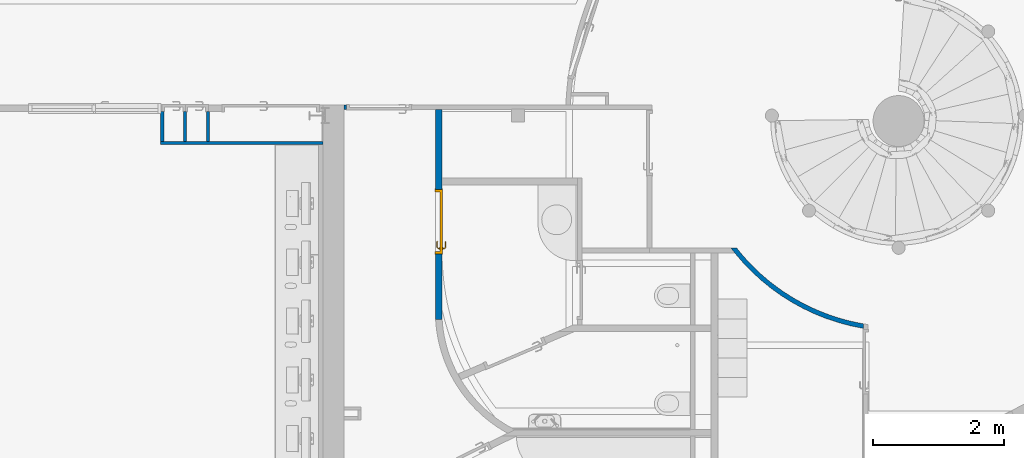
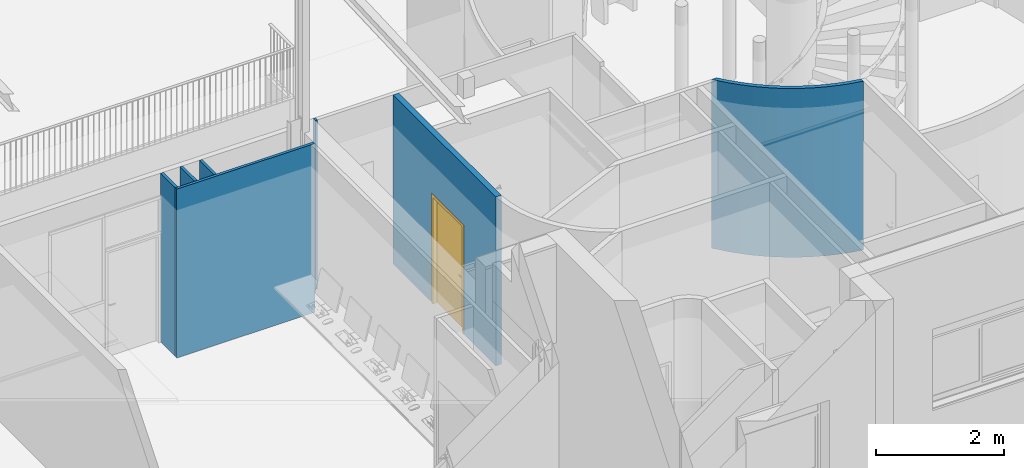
# One storey, part 46 of 137: 7 walls, 1 door, 1 opening.
"""IFC2X3 building model written with IfcOpenShell, lengths in centimetres."""

from ifc_helpers import new_model, entity, si_unit, converted_unit, derived_unit, direction, frame, frame_2d, origin, place, context, subcontext, project, spatial, polyline, circle_curve, parameter, trimmed, segment, composite_curve, rectangle, outline, extrude, clip, bounded_halfspace, faceted_brep, source, transform, mapped, material, material_list, layer, layer_set, layer_usage, type_object, type_shapes, element, fill, save


model = new_model("IFC2X3")

# Units and contexts
model_context = context("Model", 3, precision=0.001, world=origin(), true_north=direction((6.12303176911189e-17, 1.0)))
body_context = subcontext(model_context, "Body", "Model", "MODEL_VIEW")
ifc_project = project(units=[si_unit("LENGTHUNIT", "METRE", prefix="CENTI"), si_unit("AREAUNIT", "SQUARE_METRE"), si_unit("VOLUMEUNIT", "CUBIC_METRE"), converted_unit("PLANEANGLEUNIT", "DEGREE", entity("IfcRatioMeasure", 0.0174532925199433), si_unit("PLANEANGLEUNIT", "RADIAN"), dimensions=[0, 0, 0, 0, 0, 0, 0]), si_unit("MASSUNIT", "GRAM", prefix="KILO"), si_unit("TIMEUNIT", "SECOND"), si_unit("FREQUENCYUNIT", "HERTZ"), si_unit("THERMODYNAMICTEMPERATUREUNIT", "DEGREE_CELSIUS"), derived_unit("THERMALTRANSMITTANCEUNIT", [(si_unit("MASSUNIT", "GRAM", prefix="KILO"), 1), (si_unit("THERMODYNAMICTEMPERATUREUNIT", "KELVIN"), -1), (si_unit("TIMEUNIT", "SECOND"), -3)]), derived_unit("VOLUMETRICFLOWRATEUNIT", [(si_unit("LENGTHUNIT", "METRE"), 3), (si_unit("TIMEUNIT", "SECOND"), -1)]), si_unit("ELECTRICCURRENTUNIT", "AMPERE"), si_unit("ELECTRICVOLTAGEUNIT", "VOLT"), si_unit("POWERUNIT", "WATT"), si_unit("FORCEUNIT", "NEWTON", prefix="KILO"), si_unit("ILLUMINANCEUNIT", "LUX"), si_unit("LUMINOUSFLUXUNIT", "LUMEN"), si_unit("LUMINOUSINTENSITYUNIT", "CANDELA"), derived_unit("USERDEFINED", [(si_unit("MASSUNIT", "GRAM", prefix="KILO"), -1), (si_unit("LENGTHUNIT", "METRE"), -2), (si_unit("TIMEUNIT", "SECOND"), 3), (si_unit("LUMINOUSFLUXUNIT", "LUMEN"), 1)]), derived_unit("LINEARVELOCITYUNIT", [(si_unit("LENGTHUNIT", "METRE"), 1), (si_unit("TIMEUNIT", "SECOND"), -1)]), si_unit("PRESSUREUNIT", "PASCAL"), derived_unit("USERDEFINED", [(si_unit("LENGTHUNIT", "METRE"), -2), (si_unit("MASSUNIT", "GRAM", prefix="KILO"), 1), (si_unit("TIMEUNIT", "SECOND"), -2)])], contexts=[model_context])

# Site, building, storey
site_placement = place(None, frame((8.62739174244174, -249.285249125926, 0.0)))
site = spatial("IfcSite", under=ifc_project, at=site_placement, Name="Default", CompositionType="ELEMENT")
building_placement = place(site_placement, origin())
building = spatial("IfcBuilding", under=site, at=building_placement, CompositionType="ELEMENT")
storey_placement = place(building_placement, origin())
storey = spatial("IfcBuildingStorey", under=building, at=storey_placement, Name="RDC", CompositionType="ELEMENT", Elevation=-8.82465566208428e-11)

# Walls
ifc_material_1 = material(Name="Plâtre EXISTANT")
ifc_layer_1 = layer(ifc_material_1, 7.0)
ifc_layer_set_1 = layer_set([ifc_layer_1], Name="Mur de base:PLA EXISTANT 7")
ifc_layer_usage_1 = layer_usage(ifc_layer_set_1, "AXIS2", "POSITIVE", -3.5)
wall_type_1 = type_object("IfcWallType", Name="Mur de base:PLA EXISTANT 7", PredefinedType="STANDARD", material=ifc_layer_set_1)
wall_1_placement = place(storey_placement, frame((2990.49019075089, 439.59711501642, 0.0)))
element("IfcWallStandardCase", 1, at=wall_1_placement, inside=storey, type_object=wall_type_1, material=ifc_layer_usage_1, Name="Mur de base:PLA EXISTANT 7", ObjectType="Mur de base:PLA EXISTANT 7", context=body_context, shape_type="Clipping", body=[
    clip(extrude(outline(composite_curve([segment(polyline([(-203.252587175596, 119.383093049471), (-200.543044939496, 115.862655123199)]), True, "CONTINUOUS"), segment(polyline([(-200.543044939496, 115.862655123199), (-197.784426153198, 112.379194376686)]), True, "CONTINUOUS"), segment(polyline([(-197.784426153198, 112.379194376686), (-185.135361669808, 97.5703781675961)]), True, "CONTINUOUS"), segment(polyline([(-185.135361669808, 97.5703781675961), (-171.610250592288, 83.5497326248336)]), True, "CONTINUOUS"), segment(polyline([(-171.610250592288, 83.5497326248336), (-157.262022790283, 70.3726294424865)]), True, "CONTINUOUS"), segment(polyline([(-157.262022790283, 70.3726294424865), (-142.143191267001, 58.0872994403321)]), True, "CONTINUOUS"), segment(polyline([(-142.143191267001, 58.0872994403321), (-126.309089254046, 46.7387102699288)]), True, "CONTINUOUS"), segment(polyline([(-126.309089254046, 46.7387102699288), (-109.817667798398, 36.3684018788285)]), True, "CONTINUOUS"), segment(polyline([(-109.817667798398, 36.3684018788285), (-92.7292837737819, 27.0143345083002)]), True, "CONTINUOUS"), segment(polyline([(-92.7292837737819, 27.0143345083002), (-75.1064790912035, 18.7107497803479)]), True, "CONTINUOUS"), segment(polyline([(-75.1064790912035, 18.7107497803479), (-57.0137519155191, 11.488045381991)]), True, "CONTINUOUS"), segment(polyline([(-57.0137519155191, 11.488045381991), (-38.5173207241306, 5.37266380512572)]), True, "CONTINUOUS"), segment(polyline([(-38.5173207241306, 5.37266380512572), (-19.6849071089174, 0.387001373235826)]), True, "CONTINUOUS"), segment(polyline([(-19.6849071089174, 0.387001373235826), (-0.585362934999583, -3.4507028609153)]), True, "CONTINUOUS"), segment(polyline([(-0.585362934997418, -3.45070286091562), (-0.585362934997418, 3.6515715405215)]), True, "CONTINUOUS"), segment(trimmed(circle_curve(frame_2d((53.2680271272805, 314.013960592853), x_axis=(1.0, 0.0)), 315.000000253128), [parameter(218.16117730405)], [parameter(260.156177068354)], True, "PARAMETER"), False, "CONTINUOUS"), segment(polyline([(-194.40883000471, 119.383093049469), (-203.252587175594, 119.383093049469)]), True, "CONTINUOUS")], self_intersect=False)), origin(), (0.0, 0.0, 1.0), 322.000000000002), bounded_halfspace(frame((-203.252587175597, 119.383093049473, 322.0), z_axis=(0.0, 0.0, -1.0), x_axis=(0.0, 1.0, 0.0)), True, frame((-203.252587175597, 119.383093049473, 322.0)), composite_curve([segment(trimmed(circle_curve(frame_2d((7818.74832395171, 5932.34884272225), x_axis=(1.0, 0.0)), 322.000000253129), [parameter(217.188820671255)], [parameter(218.769055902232)], True, "PARAMETER"), True, "CONTINUOUS"), segment(trimmed(circle_curve(frame_2d((7818.74832395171, 5932.34884272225), x_axis=(1.0, 0.0)), 322.000000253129), [parameter(218.769055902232)], [parameter(260.372233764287)], True, "PARAMETER"), True, "CONTINUOUS"), segment(polyline([(6177.29699485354, -3743.97409934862), (6177.29699485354, -3527.49677559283)]), True, "CONTINUOUS"), segment(trimmed(circle_curve(frame_2d((7818.74832395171, 5932.34884272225), x_axis=(1.0, 0.0)), 315.000000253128), [parameter(218.16117730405)], [parameter(260.156177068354)], True, "PARAMETER"), False, "CONTINUOUS"), segment(polyline([(269.557718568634, 0.0), (0.0, 0.0)]), True, "CONTINUOUS")], self_intersect=False))),
])
ifc_layer_usage_2 = layer_usage(ifc_layer_set_1, "AXIS2", "NEGATIVE", 3.5)
wall_2_placement = place(storey_placement, frame((2194.90482780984, 774.499999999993, 0.0)))
element("IfcWallStandardCase", 2, at=wall_2_placement, inside=storey, type_object=wall_type_1, material=ifc_layer_usage_2, Name="Mur de base:PLA EXISTANT 7", ObjectType="Mur de base:PLA EXISTANT 7", context=body_context, shape_type="SweptSolid", body=[
    extrude(rectangle(XDim=3.99999999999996, YDim=6.99999999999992, at=frame_2d((1.99999999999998, 6.43929354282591e-15), x_axis=(-1.0, 0.0))), origin(), (0.0, 0.0, 1.0), 322.000000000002),
])

# Wall, opening, door
ifc_material_2 = material(Name="Plâtre")
ifc_layer_2 = layer(ifc_material_2, 10.0)
ifc_layer_set_2 = layer_set([ifc_layer_2], Name="Mur de base:PLA 10")
ifc_layer_usage_3 = layer_usage(ifc_layer_set_2, "AXIS2", "NEGATIVE", 5.0)
wall_type_2 = type_object("IfcWallType", Name="Mur de base:PLA 10", PredefinedType="STANDARD", material=ifc_layer_set_2)
wall_3_placement = place(storey_placement, frame((2339.90482780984, 771.0, 0.0), z_axis=(0.0, 0.0, 1.0), x_axis=(0.0, -1.0, 0.0)))
wall_3 = element("IfcWallStandardCase", 3, at=wall_3_placement, inside=storey, type_object=wall_type_2, material=ifc_layer_usage_3, Name="Mur de base:PLA 10", ObjectType="Mur de base:PLA 10", context=body_context, shape_type="SweptSolid", body=[
    extrude(outline(polyline([(0.0, -5.0), (321.159701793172, -5.0), (320.863758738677, 5.0), (114.871431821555, 5.0), (104.871431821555, 5.0), (0.0, 5.0), (0.0, -5.0)])), origin(), (0.0, 0.0, 1.0), 322.000000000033),
])
opening_placement = place(wall_3_placement, frame((121.871431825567, -5.0, 0.0)))
opening = element("IfcOpeningElement", 4, at=opening_placement, cuts=wall_3, Name="Simple(R)-bois_MU:93x204cm_MU:1", ObjectType="Opening", context=body_context, shape_type="SweptSolid", body=[
    extrude(rectangle(XDim=206.999999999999, YDim=98.9999999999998, at=frame_2d((103.499999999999, 49.5), x_axis=(1.0, 0.0))), frame((0.0, 0.0, 0.0), z_axis=(0.0, 1.0, 0.0), x_axis=(0.0, 0.0, 1.0)), (0.0, 0.0, 1.0), 10.0),
])
ifc_material_3 = material(Name="Porte-Poignée_MU")
ifc_material_4 = material(Name="Porte-Cadre_MU")
ifc_material_5 = material(Name="Porte Panneau_MU")
ifc_material_list_1 = material_list([ifc_material_3, ifc_material_4, ifc_material_5])
ifc_material_list_2 = material_list([ifc_material_3, ifc_material_4, ifc_material_5])
door_style = type_object("IfcDoorStyle", Name="93x204cm_MU", ConstructionType="NOTDEFINED", OperationType="SINGLE_SWING_RIGHT", ParameterTakesPrecedence=False, Sizeable=False, material=ifc_material_list_2)
shared_shape = source(origin(), body_context, "Body", "Brep", [
    faceted_brep([(8.29747013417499, 3.69999999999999, 100.778044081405), (7.89999999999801, 3.69999999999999, 100.699999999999), (7.89999999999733, 3.69999999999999, 99.2999999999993), (8.2974701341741, 3.69999999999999, 99.2219559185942), (8.70252986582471, 3.69999999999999, 99.2219559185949), (9.10000000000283, 3.69999999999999, 99.3000000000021), (9.10000000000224, 3.69999999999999, 100.699999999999), (8.70252986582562, 3.69999999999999, 100.778044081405), (9.10000000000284, 5.94852045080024, 99.3000000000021), (9.10000000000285, 5.94852045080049, 100.699999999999), (8.70252986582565, 6.1131579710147, 100.778044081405), (10.0838906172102, 7.49451872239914, 100.778044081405), (9.91610938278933, 7.89957845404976, 100.778044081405), (8.29747013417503, 6.2809392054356, 100.778044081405), (19.0684749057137, 6.84673156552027, 100.778044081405), (19.3548953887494, 7.13315204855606, 100.778044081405), (18.5884689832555, 7.89957845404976, 100.778044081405), (18.4206877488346, 7.49451872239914, 100.778044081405), (7.89999999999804, 6.44557672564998, 100.699999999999), (7.89999999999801, 6.44557672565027, 99.2999999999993), (8.29747013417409, 6.28093920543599, 99.2219559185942), (9.91610938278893, 7.8995784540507, 99.2219559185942), (10.0838906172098, 7.49451872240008, 99.2219559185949), (8.70252986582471, 6.11315797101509, 99.2219559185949), (19.35489538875, 7.1331520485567, 99.2219559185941), (19.0684749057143, 6.84673156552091, 99.2219559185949), (18.420687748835, 7.49451872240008, 99.2219559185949), (18.5884689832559, 7.8995784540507, 99.2219559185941), (10.2485281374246, 7.09704858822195, 99.3000000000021), (10.2485281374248, 7.09704858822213, 100.699999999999), (9.75147186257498, 8.29704858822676, 100.699999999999), (9.75147186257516, 8.29704858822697, 99.2999999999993), (14.2522904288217, 7.09704858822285, 99.3000000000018), (18.2560502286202, 7.09704858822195, 99.3000000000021), (18.2560502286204, 7.09704858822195, 100.699999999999), (14.2522891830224, 7.09704858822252, 100.699999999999), (14.2522891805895, 7.71249275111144, 100.787811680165), (18.7531065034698, 8.29704858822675, 100.699999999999), (14.7600577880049, 8.29704858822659, 100.699999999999), (18.7531065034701, 8.29704858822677, 99.2999999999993), (13.7445206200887, 8.29704858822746, 99.2999999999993), (14.2522892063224, 7.71249274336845, 99.2121883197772), (18.787421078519, 6.56567773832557, 99.3000000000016), (19.635949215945, 7.41420587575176, 99.2999999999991), (19.6359492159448, 7.4142058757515, 100.699999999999), (18.7874210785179, 6.5656777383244, 100.699999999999)], [[[0, 1, 2, 3, 4, 5, 6, 7]], [[6, 5, 8, 9]], [[9, 10, 7, 6]], [[10, 11, 12, 13, 0, 7]], [[14, 15, 16, 17]], [[13, 18, 1, 0]], [[2, 1, 18, 19]], [[19, 20, 3, 2]], [[20, 21, 22, 23, 4, 3]], [[24, 25, 26, 27]], [[23, 8, 5, 4]], [[9, 8, 28, 29]], [[29, 11, 10, 9]], [[12, 30, 18, 13]], [[19, 18, 30, 31]], [[31, 21, 20, 19]], [[22, 28, 8, 23]], [[29, 28, 32, 33, 34, 35]], [[11, 35, 36]], [[16, 37, 38]], [[30, 12, 38]], [[38, 12, 36]], [[36, 35, 17]], [[17, 16, 36]], [[35, 11, 29]], [[34, 17, 35]], [[11, 36, 12]], [[38, 36, 16]], [[31, 30, 38, 37, 39, 40]], [[40, 41, 21]], [[41, 40, 27]], [[21, 31, 40]], [[39, 27, 40]], [[41, 32, 22]], [[22, 21, 41]], [[26, 32, 41]], [[28, 22, 32]], [[32, 26, 33]], [[26, 41, 27]], [[42, 25, 24, 43, 44, 15, 14, 45]], [[34, 33, 42, 45]], [[45, 14, 17, 34]], [[15, 44, 37, 16]], [[39, 37, 44, 43]], [[43, 24, 27, 39]], [[25, 42, 33, 26]]]),
    faceted_brep([(8.29747013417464, -1.30000000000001, 100.778044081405), (8.70252986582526, -1.30000000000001, 100.778044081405), (9.10000000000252, -1.30000000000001, 100.699999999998), (9.10000000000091, -1.30000000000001, 99.3000000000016), (8.70252986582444, -1.30000000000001, 99.2219559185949), (8.29747013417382, -1.30000000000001, 99.2219559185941), (7.8999999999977, -1.30000000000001, 99.2999999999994), (7.89999999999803, -1.30000000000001, 100.699999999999), (7.89999999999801, -4.06509507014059, 100.699999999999), (8.29747013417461, -3.90045754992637, 100.778044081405), (9.90235851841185, -5.50534593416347, 100.778044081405), (10.0701397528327, -5.10028620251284, 100.778044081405), (8.70252986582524, -3.73267631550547, 100.778044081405), (19.3521810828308, -4.73891952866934, 100.778044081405), (19.0657605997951, -4.4524990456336, 100.778044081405), (18.4179734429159, -5.10028620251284, 100.778044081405), (18.5857546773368, -5.50534593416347, 100.778044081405), (9.10000000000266, -3.56803879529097, 100.699999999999), (9.10000000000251, -3.56803879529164, 99.3000000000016), (8.70252986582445, -3.7326763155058, 99.2219559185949), (10.0701397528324, -5.10028620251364, 99.2219559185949), (9.90235851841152, -5.50534593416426, 99.2219559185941), (8.29747013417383, -3.9004575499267, 99.2219559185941), (19.0657605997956, -4.45249904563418, 99.2219559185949), (19.3521810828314, -4.73891952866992, 99.2219559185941), (18.5857546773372, -5.50534593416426, 99.2219559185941), (18.4179734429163, -5.10028620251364, 99.2219559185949), (7.89999999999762, -4.06509507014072, 99.2999999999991), (9.73772099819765, -5.90281606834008, 100.699999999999), (10.2347772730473, -4.70281606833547, 100.699999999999), (10.2347772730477, -4.70281606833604, 99.3000000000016), (9.73772099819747, -5.90281606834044, 99.2999999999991), (13.7307697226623, -5.90281606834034, 100.699999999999), (14.2440566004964, -5.31828027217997, 100.787811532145), (18.7503921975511, -5.90281606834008, 100.699999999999), (14.2440565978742, -4.70281606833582, 100.699999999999), (18.2533359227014, -4.70281606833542, 100.699999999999), (18.2533359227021, -4.70281606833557, 99.3000000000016), (14.2440563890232, -4.70281606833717, 99.3000000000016), (14.2440565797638, -5.31828027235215, 99.2121884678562), (18.7503921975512, -5.90281606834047, 99.2999999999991), (14.7573433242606, -5.90281606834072, 99.2999999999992), (18.7847067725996, -4.1714452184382, 100.699999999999), (19.6332349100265, -5.01997335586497, 100.699999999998), (19.633234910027, -5.01997335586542, 99.2999999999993), (18.7847067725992, -4.17144521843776, 99.3000000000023)], [[[0, 1, 2, 3, 4, 5, 6, 7]], [[8, 9, 0, 7]], [[9, 10, 11, 12, 1, 0]], [[13, 14, 15, 16]], [[12, 17, 2, 1]], [[3, 2, 17, 18]], [[18, 19, 4, 3]], [[19, 20, 21, 22, 5, 4]], [[23, 24, 25, 26]], [[22, 27, 6, 5]], [[7, 6, 27, 8]], [[28, 10, 9, 8]], [[11, 29, 17, 12]], [[18, 17, 29, 30]], [[30, 20, 19, 18]], [[21, 31, 27, 22]], [[8, 27, 31, 28]], [[32, 33, 10]], [[33, 32, 16]], [[10, 28, 32]], [[34, 16, 32]], [[33, 35, 11]], [[11, 10, 33]], [[15, 35, 33]], [[29, 11, 35]], [[35, 15, 36]], [[15, 33, 16]], [[30, 29, 35, 36, 37, 38]], [[20, 38, 39]], [[25, 40, 41]], [[31, 21, 41]], [[41, 21, 39]], [[39, 38, 26]], [[26, 25, 39]], [[38, 20, 30]], [[37, 26, 38]], [[20, 39, 21]], [[41, 39, 25]], [[28, 31, 41, 40, 34, 32]], [[42, 14, 13, 43, 44, 24, 23, 45]], [[43, 13, 16, 34]], [[14, 42, 36, 15]], [[37, 36, 42, 45]], [[45, 23, 26, 37]], [[24, 44, 40, 25]], [[34, 40, 44, 43]]]),
    faceted_brep([(9.53527618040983, 3.19999999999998, 86.6003983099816), (10.4999999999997, 3.19999999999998, 87.0), (10.4999999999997, 3.19999999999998, 108.0), (9.53527618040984, 3.19999999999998, 108.399601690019), (8.49999999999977, 3.19999999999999, 108.535898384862), (7.46472381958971, 3.19999999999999, 108.399601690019), (6.49999999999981, 3.19999999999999, 108.0), (6.49999999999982, 3.19999999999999, 87.0), (7.4647238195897, 3.19999999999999, 86.6003983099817), (8.49999999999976, 3.19999999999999, 86.4641016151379), (9.53527618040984, 3.69999999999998, 108.399601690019), (10.4999999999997, 3.69999999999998, 108.0), (10.4999999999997, 3.69999999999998, 87.0), (9.53527618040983, 3.69999999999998, 86.6003983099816), (8.49999999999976, 3.69999999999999, 86.4641016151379), (7.4647238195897, 3.69999999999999, 86.6003983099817), (6.49999999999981, 3.69999999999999, 87.0), (6.49999999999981, 3.69999999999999, 108.0), (7.46472381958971, 3.69999999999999, 108.399601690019), (8.49999999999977, 3.69999999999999, 108.535898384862)], [[[0, 1, 2, 3, 4, 5, 6, 7, 8, 9]], [[10, 11, 12, 13, 14, 15, 16, 17, 18, 19]], [[11, 10, 3, 2]], [[3, 10, 19, 4]], [[19, 18, 5, 4]], [[18, 17, 6, 5]], [[7, 6, 17, 16]], [[16, 15, 8, 7]], [[8, 15, 14, 9]], [[14, 13, 0, 9]], [[13, 12, 1, 0]], [[2, 1, 12, 11]]]),
    faceted_brep([(9.53527618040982, -1.30000000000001, 86.6003983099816), (10.4999999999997, -1.30000000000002, 87.0), (10.4999999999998, -1.30000000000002, 108.0), (9.53527618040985, -1.30000000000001, 108.399601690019), (8.49999999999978, -1.30000000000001, 108.535898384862), (7.46472381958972, -1.30000000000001, 108.399601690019), (6.49999999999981, -1.3, 108.0), (6.49999999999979, -1.3, 87.0), (7.46472381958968, -1.30000000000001, 86.6003983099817), (8.49999999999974, -1.30000000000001, 86.4641016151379), (9.53527618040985, -0.800000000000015, 108.399601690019), (10.4999999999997, -0.800000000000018, 108.0), (10.4999999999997, -0.800000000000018, 87.0), (9.53527618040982, -0.800000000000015, 86.6003983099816), (8.49999999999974, -0.800000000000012, 86.4641016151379), (7.46472381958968, -0.800000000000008, 86.6003983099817), (6.49999999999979, -0.800000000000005, 87.0), (6.49999999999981, -0.800000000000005, 108.0), (7.46472381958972, -0.800000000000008, 108.399601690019), (8.49999999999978, -0.800000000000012, 108.535898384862)], [[[0, 1, 2, 3, 4, 5, 6, 7, 8, 9]], [[10, 11, 12, 13, 14, 15, 16, 17, 18, 19]], [[16, 15, 8, 7]], [[8, 15, 14, 9]], [[14, 13, 0, 9]], [[13, 12, 1, 0]], [[2, 1, 12, 11]], [[11, 10, 3, 2]], [[3, 10, 19, 4]], [[19, 18, 5, 4]], [[18, 17, 6, 5]], [[7, 6, 17, 16]]]),
    faceted_brep([(0.0, 0.0, 0.0), (0.0, 10.0, 0.0), (-1.0, 10.0, 0.0), (-1.0, 10.8000000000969, 0.0), (4.0, 10.8000000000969, 0.0), (4.0, 3.2, 0.0), (3.0, 3.2, 0.0), (3.0, -0.799999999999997, 0.0), (-1.0, -0.799999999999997, 0.0), (-1.0, 0.0, 0.0), (0.0, 0.0, 207.0), (0.0, 10.0, 207.0), (99.0, 10.0, 207.0), (99.0, 10.0, 0.0), (100.0, 10.0, 0.0), (100.0, 10.0, 208.0), (-1.0, 10.0, 208.0), (-1.0, 10.8000000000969, 208.0), (100.0, 10.8000000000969, 208.0), (100.0, 10.8000000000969, 0.0), (95.0, 10.8000000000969, 0.0), (95.0, 10.8000000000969, 203.0), (4.0, 10.8000000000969, 203.0), (4.0, 3.2, 203.0), (95.0, 3.2, 203.0), (95.0, 3.2, 0.0), (96.0, 3.2, 0.0), (96.0, 3.2, 204.0), (3.0, 3.2, 204.0), (3.0, -0.799999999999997, 204.0), (96.0, -0.799999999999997, 204.0), (96.0, -0.799999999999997, 0.0), (100.0, -0.799999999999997, 0.0), (100.0, -0.799999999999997, 208.0), (-1.0, -0.799999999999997, 208.0), (-1.0, 0.0, 208.0), (100.0, 0.0, 208.0), (100.0, 0.0, 0.0), (99.0, 0.0, 0.0), (99.0, 0.0, 207.0)], [[[0, 1, 2, 3, 4, 5, 6, 7, 8, 9]], [[1, 0, 10, 11]], [[2, 1, 11, 12, 13, 14, 15, 16]], [[3, 2, 16, 17]], [[4, 3, 17, 18, 19, 20, 21, 22]], [[5, 4, 22, 23]], [[6, 5, 23, 24, 25, 26, 27, 28]], [[7, 6, 28, 29]], [[8, 7, 29, 30, 31, 32, 33, 34]], [[9, 8, 34, 35]], [[0, 9, 35, 36, 37, 38, 39, 10]], [[12, 39, 38, 13]], [[38, 37, 32, 31, 26, 25, 20, 19, 14, 13]], [[18, 15, 14, 19]], [[24, 21, 20, 25]], [[30, 27, 26, 31]], [[36, 33, 32, 37]], [[11, 10, 39, 12]], [[17, 16, 15, 18]], [[23, 22, 21, 24]], [[29, 28, 27, 30]], [[35, 34, 33, 36]]]),
    faceted_brep([(3.0, -0.799999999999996, 204.0), (3.0, -0.799999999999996, 0.0), (96.0, -0.799999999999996, 0.0), (96.0, -0.799999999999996, 204.0), (3.0, 3.2, 204.0), (96.0, 3.2, 204.0), (96.0, 3.2, 0.0), (3.0, 3.2, 0.0)], [[[0, 1, 2, 3]], [[4, 5, 6, 7]], [[1, 0, 4, 7]], [[2, 1, 7, 6]], [[3, 2, 6, 5]], [[0, 3, 5, 4]]]),
])
type_shapes(door_style, [shared_shape])
door_placement = place(opening_placement, frame((99.0, 10.0, 0.0), z_axis=(0.0, 0.0, 1.0), x_axis=(-1.0, 0.0, 0.0)))
door = element("IfcDoor", 5, at=door_placement, inside=storey, type_object=door_style, material=ifc_material_list_1, Name="Simple(R)-bois_MU:93x204cm_MU", ObjectType="93x204cm_MU", OverallHeight=206.999999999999, OverallWidth=98.9999999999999, context=body_context, shape_type="MappedRepresentation", body=[
    mapped(shared_shape, transform((0.0, 0.0, 0.0), scale=1.0)),
])
fill(opening, door)

# Walls
ifc_layer_3 = layer(ifc_material_1, 5.0)
ifc_layer_set_3 = layer_set([ifc_layer_3], Name="Mur de base:PLA EXISTANT 5")
ifc_layer_usage_4 = layer_usage(ifc_layer_set_3, "AXIS2", "NEGATIVE", 2.5)
wall_type_3 = type_object("IfcWallType", Name="Mur de base:PLA EXISTANT 5", PredefinedType="STANDARD", material=ifc_layer_set_3)
wall_4_placement = place(storey_placement, frame((2162.90482780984, 720.0, 0.0), z_axis=(0.0, 0.0, 1.0), x_axis=(-1.0, 0.0, 0.0)))
element("IfcWallStandardCase", 6, at=wall_4_placement, inside=storey, type_object=wall_type_3, material=ifc_layer_usage_4, Name="Mur de base:PLA EXISTANT 5", ObjectType="Mur de base:PLA EXISTANT 5", context=body_context, shape_type="Clipping", body=[
    clip(extrude(rectangle(XDim=249.000000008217, YDim=4.99999999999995, at=frame_2d((124.500000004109, 3.77475828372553e-15), x_axis=(-1.0, 0.0))), origin(), (0.0, 0.0, 1.0), 322.000000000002), bounded_halfspace(frame((0.0, -2.49999999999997, 322.0), z_axis=(0.0, 0.0, -1.0), x_axis=(1.0, 0.0, 0.0)), True, frame((0.0, -2.49999999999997, 322.0)), polyline([(0.0, 0.0), (174.0, 0.0), (179.0, 0.0), (209.0, 0.0), (214.0, 0.0), (244.0, 0.0), (249.0, 0.0), (249.0, 5.0), (7.0, 5.0), (0.0, 5.0), (0.0, 0.0)]))),
])
ifc_layer_usage_5 = layer_usage(ifc_layer_set_3, "AXIS2", "NEGATIVE", 2.5)
wall_5_placement = place(storey_placement, frame((1916.40482780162, 722.499999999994, 0.0), z_axis=(0.0, 0.0, 1.0), x_axis=(0.0, 1.0, 0.0)))
element("IfcWallStandardCase", 7, at=wall_5_placement, inside=storey, type_object=wall_type_3, material=ifc_layer_usage_5, Name="Mur de base:PLA EXISTANT 5", ObjectType="Mur de base:PLA EXISTANT 5", context=body_context, shape_type="Clipping", body=[
    clip(extrude(rectangle(XDim=45.5000000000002, YDim=5.00000000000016, at=frame_2d((22.7500000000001, 0.0), x_axis=(-1.0, 0.0))), origin(), (0.0, 0.0, 1.0), 322.000000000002), bounded_halfspace(frame((0.0, -2.49999999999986, 322.0), z_axis=(0.0, 0.0, -1.0), x_axis=(0.0, 1.0, 0.0)), True, frame((0.0, -2.49999999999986, 322.0)), polyline([(0.0, 0.0), (45.5000000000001, 0.0), (45.5000000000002, 5.0), (0.0, 5.0), (0.0, 0.0)]))),
])
ifc_layer_usage_6 = layer_usage(ifc_layer_set_3, "AXIS2", "NEGATIVE", 2.5)
wall_6_placement = place(storey_placement, frame((1951.40482781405, 722.499999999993, 0.0), z_axis=(0.0, 0.0, 1.0), x_axis=(0.0, 1.0, 0.0)))
element("IfcWallStandardCase", 8, at=wall_6_placement, inside=storey, type_object=wall_type_3, material=ifc_layer_usage_6, Name="Mur de base:PLA EXISTANT 5", ObjectType="Mur de base:PLA EXISTANT 5", context=body_context, shape_type="Clipping", body=[
    clip(extrude(rectangle(XDim=45.5000000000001, YDim=4.99999999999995, at=frame_2d((22.75, 1.08357767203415e-13), x_axis=(-1.0, 0.0))), origin(), (0.0, 0.0, 1.0), 322.000000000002), bounded_halfspace(frame((0.0, -2.49999999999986, 322.0), z_axis=(0.0, 0.0, -1.0), x_axis=(0.0, 1.0, 0.0)), True, frame((0.0, -2.49999999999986, 322.0)), polyline([(0.0, 0.0), (45.5000000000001, 0.0), (45.5000000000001, 5.0), (0.0, 5.0), (0.0, 0.0)]))),
])
ifc_layer_usage_7 = layer_usage(ifc_layer_set_3, "AXIS2", "NEGATIVE", 2.5)
wall_7_placement = place(storey_placement, frame((1986.40482780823, 722.499999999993, 0.0), z_axis=(0.0, 0.0, 1.0), x_axis=(0.0, 1.0, 0.0)))
element("IfcWallStandardCase", 9, at=wall_7_placement, inside=storey, type_object=wall_type_3, material=ifc_layer_usage_7, Name="Mur de base:PLA EXISTANT 5", ObjectType="Mur de base:PLA EXISTANT 5", context=body_context, shape_type="Clipping", body=[
    clip(extrude(rectangle(XDim=45.5000000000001, YDim=4.99999999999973, at=frame_2d((22.75, 0.0), x_axis=(-1.0, 0.0))), origin(), (0.0, 0.0, 1.0), 322.000000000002), bounded_halfspace(frame((0.0, -2.5000000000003, 322.0), z_axis=(0.0, 0.0, -1.0), x_axis=(0.0, 1.0, 0.0)), True, frame((0.0, -2.5000000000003, 322.0)), polyline([(0.0, 0.0), (45.5000000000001, 0.0), (45.5000000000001, 5.0), (0.0, 5.0), (0.0, 0.0)]))),
])

save(model, "model.ifc")
